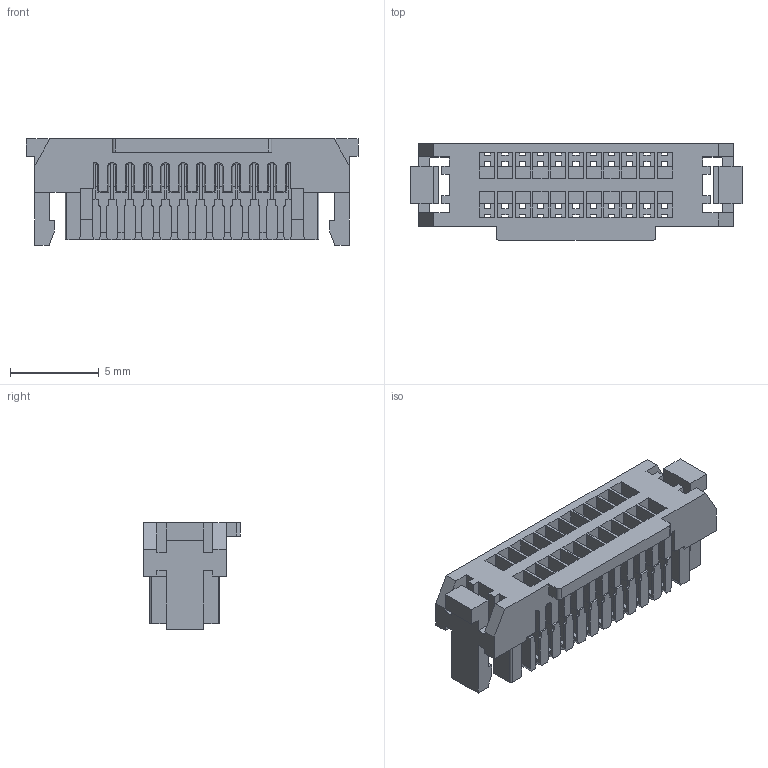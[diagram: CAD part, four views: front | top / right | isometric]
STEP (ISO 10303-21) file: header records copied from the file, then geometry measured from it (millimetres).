
FILE_DESCRIPTION(('CATIA V5 STEP Exchange'),'2;1');
FILE_NAME('F:\黄富鸿\条形连接器\1.00系列\11--SH25\NY\HC-SH25-2x11Y-05 (1.00 双排 带扣 孔座-HCTL).stp','2026-05-07T07:07:17+00:00',('none'),('none'),'CATIA Version 5 Release 20 GA (IN-10)','CATIA V5 STEP AP203','none');
FILE_SCHEMA(('CONFIG_CONTROL_DESIGN'));
Length unit declared in the file: millimetre
Products named in the file (1): Part2
Bounding box: 18.7 x 5.45 x 6 mm (x, y, z)
Volume: 192.9 mm3; surface area: 1036.2 mm2
Topology: 1 solids, 1 shells, 850 faces, 2579 edges, 1661 vertices
Faces by surface type: plane 756, cylinder 50, cone 44
Entity records: 25544 total; most frequent: ORIENTED_EDGE 5158, CARTESIAN_POINT 4646, DIRECTION 3139, EDGE_CURVE 2579, VECTOR 2301, LINE 2301, VERTEX_POINT 1661, EDGE_LOOP 872
